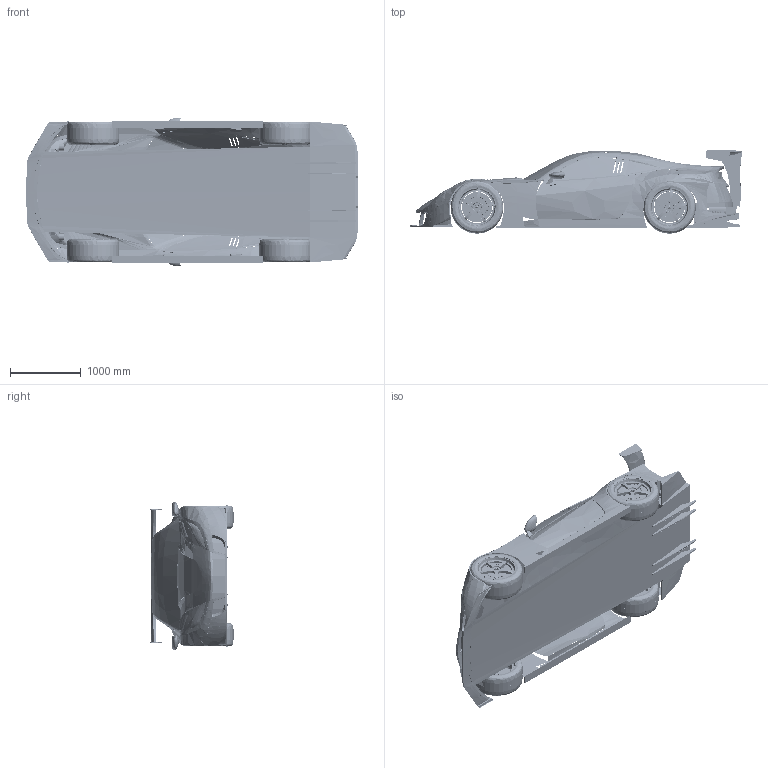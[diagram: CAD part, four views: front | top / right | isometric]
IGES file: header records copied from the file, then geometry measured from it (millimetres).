
Start section: SolidWorks IGES file using analytic representation for surfaces
Global section: file name: D:\design\Honda HSV\honda hsv.IGS; native system: SolidWorks 2014; preprocessor: SolidWorks 2014; author: FIRAT; date: 150307.181728; units: millimetre
Bounding box: 4699.2 x 1174.94 x 2095.88 mm (x, y, z)
Surface area: 40637624 mm2 (no closed solid volume)
Topology: 0 solids, 0 shells, 2696 faces, 44374 edges, 44280 vertices
Faces by surface type: bspline 1850, revolution 846
